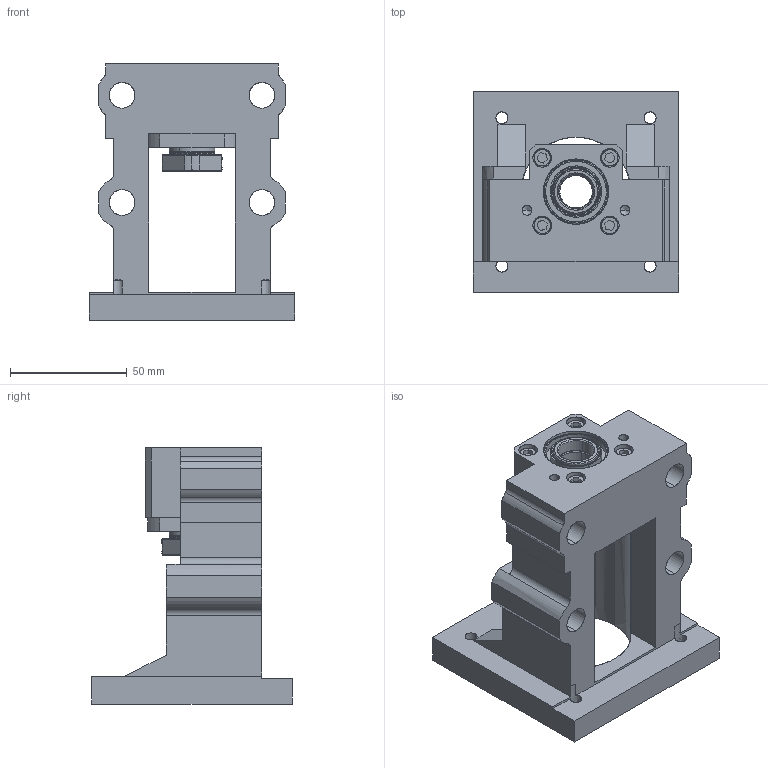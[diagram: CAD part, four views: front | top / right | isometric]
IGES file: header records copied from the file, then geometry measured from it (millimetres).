
Start section: SolidWorks IGES file using analytic representation for surfaces
Global section: file name: C:\Users\117\Desktop\MBCE15M-EP轉造級.IGS,15; native system: HSolidWorks 2018; preprocessor: SolidWorks 2018; author: 117; date: 230112.134744; units: millimetre
Bounding box: 88 x 86 x 110 mm (x, y, z)
Surface area: 83158.4 mm2 (no closed solid volume)
Topology: 0 solids, 0 shells, 576 faces, 9992 edges, 9922 vertices
Faces by surface type: revolution 321, bspline 255
